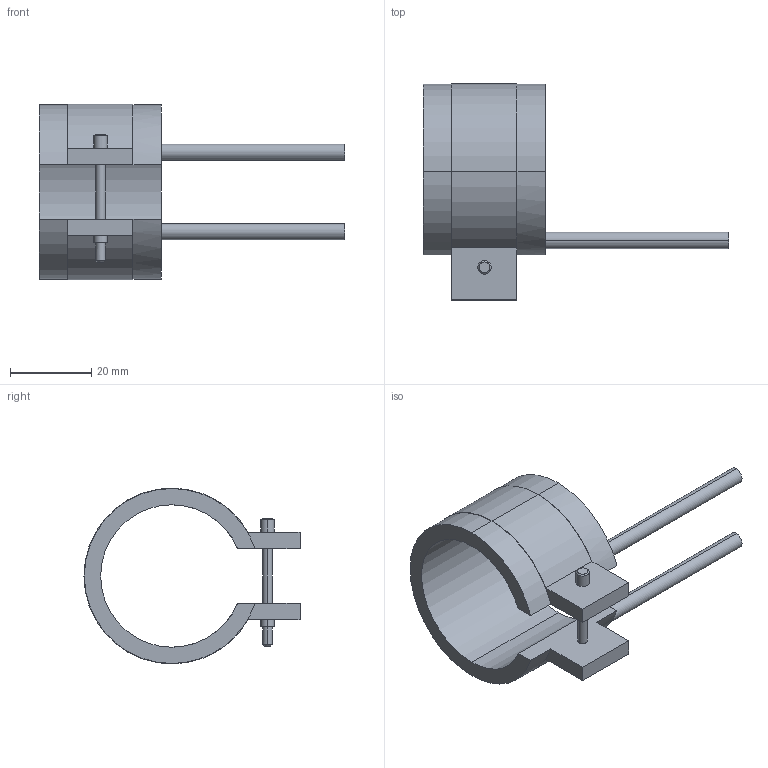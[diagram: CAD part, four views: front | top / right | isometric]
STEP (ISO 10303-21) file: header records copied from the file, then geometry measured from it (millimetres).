
FILE_DESCRIPTION(('CATIA V5 STEP Exchange'),'2;1');
FILE_NAME('C:\Users\Utente\Desktop\IO LAVORO\3D X SITO CF\X SITO\PLASTICA\RF2\14035030.stp','2021-03-31T11:37:53+00:00',('none'),('none'),'CATIA Version 5 Release 20 GA (IN-10)','CATIA V5 STEP AP203','none');
FILE_SCHEMA(('CONFIG_CONTROL_DESIGN'));
Length unit declared in the file: millimetre
Products named in the file (1): 14035030
Bounding box: 75 x 53.1 x 43.2 mm (x, y, z)
Volume: 16005.9 mm3; surface area: 9930.7 mm2
Topology: 1 solids, 1 shells, 45 faces, 116 edges, 76 vertices
Faces by surface type: cylinder 24, plane 17, cone 4
Entity records: 1412 total; most frequent: CARTESIAN_POINT 288, ORIENTED_EDGE 232, DIRECTION 195, EDGE_CURVE 116, AXIS2_PLACEMENT_3D 103, VERTEX_POINT 76, CIRCLE 61, VECTOR 52
